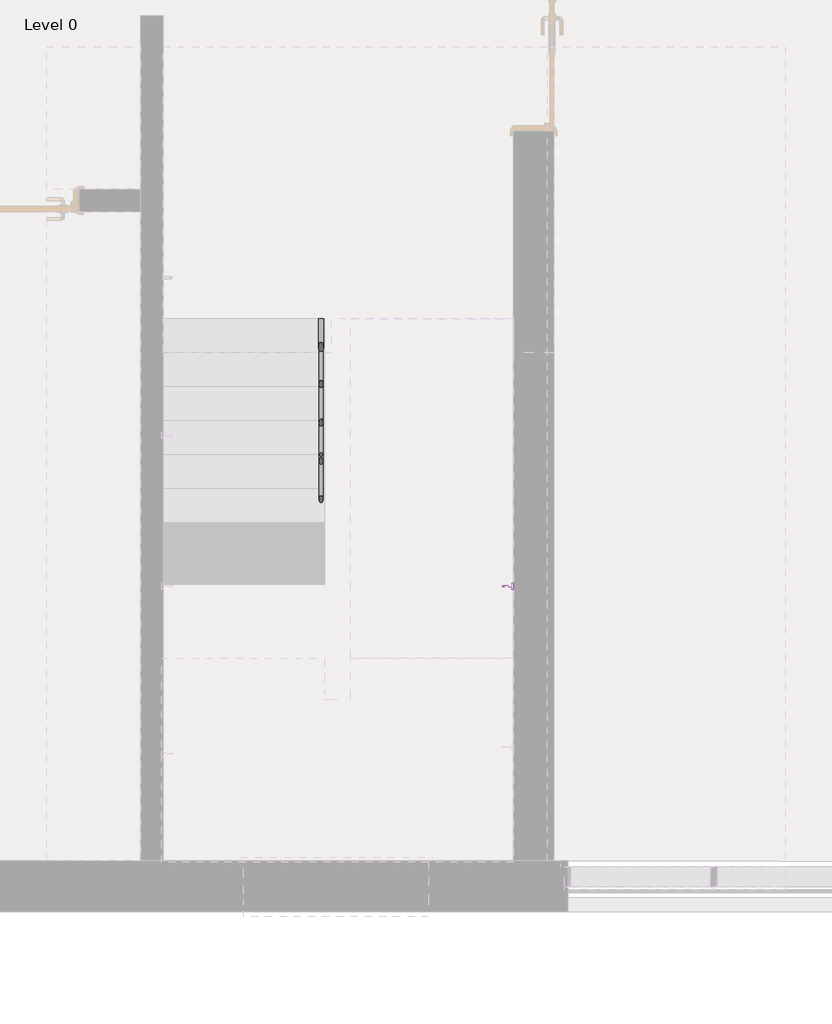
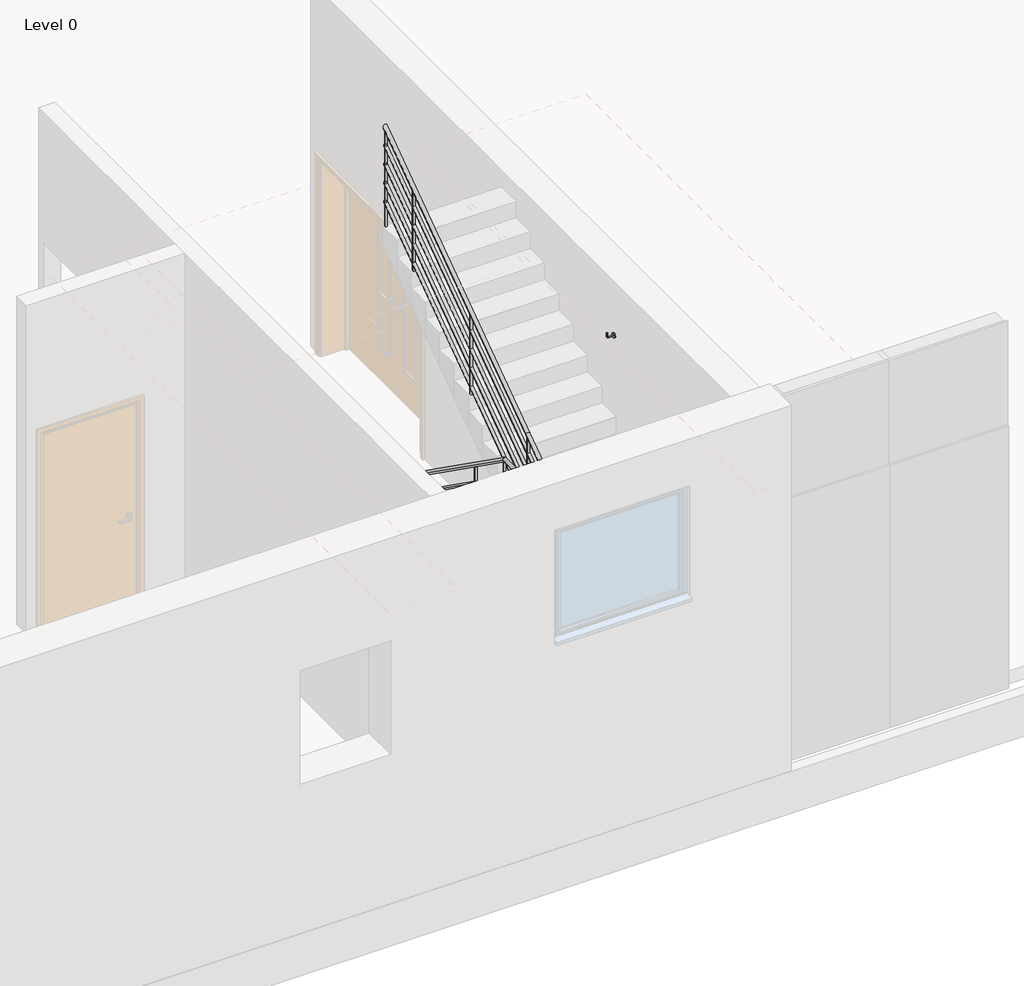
# One storey, part 11 of 14: 1 proxy, 1 railing.
"""IFC4 building model written with IfcOpenShell, lengths in millimetres."""

from ifc_helpers import new_model, si_unit, point, frame, frame_2d, origin, place, context, project, spatial, circle_curve, ellipse_curve, trimmed, segment, composite_curve, outline, extrude, transform, mapped, element, save
from ifc_brep_helpers import plane_surface, cylinder_surface, advanced_brep
from components import support_metal_circular1_support_metal_circular_016e83f0

model = new_model("IFC4")

# Units and contexts
model_context = context("Model", 3, world=origin())
ifc_project = project(units=[si_unit("LENGTHUNIT", "METRE", prefix="MILLI")], contexts=[model_context])

# Site, building, storey
site = spatial("IfcSite", under=ifc_project)
building = spatial("IfcBuilding", under=site)
storey = spatial("IfcBuildingStorey", under=building, Name="Level 0", Elevation=0.0)

# Proxy
placement = place(None, origin())
support_metal_circular1_support_metal_circular_shape = support_metal_circular1_support_metal_circular_016e83f0(model_context)
element("IfcBuildingElementProxy", 1, Name="Support - Metal - Circular1 : Support - Metal - Circular", ObjectType="Support - Metal - Circular1 : Support - Metal - Circular", at=placement, inside=storey, context=model_context, shape_type="MappedRepresentation", body=[
    mapped(support_metal_circular1_support_metal_circular_shape, transform((7761.8000023, 2330.7111848, 3385.714432), x_axis=(0.0, -1.0, 0.0), y_axis=(1.0, 0.0, 0.0), z_axis=(0.0, 0.0, 1.0))),
])

# Railing
element("IfcRailing", 2, ObjectType="36\"_Pipe", at=placement, inside=storey, context=model_context, shape_type="SolidModel", body=[
    advanced_brep(
    [(6401.8000024, 4300.0, 1052.7548977), (6441.8000024, 4300.0, 1052.7548977), (6401.8000024, 1793.6287019, 2830.0), (6441.8000024, 1793.6287019, 2830.0), (6401.8000024, 1454.6, 2830.0), (6441.8000024, 1494.6, 2830.0), (6682.6000025, 1454.6, 2830.0), (6642.6000025, 1494.6, 2830.0), (6682.6000025, 1556.3712981, 2830.0), (6642.6000025, 1556.3712981, 2830.0), (6682.6000025, 1811.5685755, 3010.9580695), (6642.6000025, 1811.5685755, 3010.9580695), (6682.6000025, 4300.0, 4775.4821704), (6642.6000025, 4300.0, 4775.4821704)],
    [
        (0, 1, ellipse_curve(frame((6421.8000024, 4300.0, 1052.7548977), z_axis=(0.0, 1.0, 0.0), x_axis=(0.0, 0.0, -1.0)), 24.5178296, 20.0)),
        (1, 0, ellipse_curve(frame((6421.8000024, 4300.0, 1052.7548977), z_axis=(0.0, 1.0, 0.0), x_axis=(0.0, 0.0, -1.0)), 24.5178296, 20.0)),
        (0, 2),
        (2, 3, ellipse_curve(frame((6421.8000024, 1793.6287019, 2830.0), z_axis=(0.0, 0.9528202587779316, -0.30353509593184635), x_axis=(0.0, -0.30353509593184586, -0.952820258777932)), 20.9903178, 20.0)),
        (3, 1),
        (3, 2, ellipse_curve(frame((6421.8000024, 1793.6287019, 2830.0), z_axis=(0.0, 0.9528202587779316, -0.30353509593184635), x_axis=(0.0, -0.30353509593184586, -0.952820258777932)), 20.9903178, 20.0)),
        (2, 4),
        (4, 5, ellipse_curve(frame((6421.8000024, 1474.6, 2830.0), z_axis=(-0.7071067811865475, 0.7071067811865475, 0.0), x_axis=(0.7071067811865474, 0.7071067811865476, 0.0)), 28.2842712, 20.0)),
        (5, 3),
        (5, 4, ellipse_curve(frame((6421.8000024, 1474.6, 2830.0), z_axis=(-0.7071067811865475, 0.7071067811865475, 0.0), x_axis=(0.7071067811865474, 0.7071067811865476, 0.0)), 28.2842712, 20.0)),
        (4, 6),
        (6, 7, ellipse_curve(frame((6662.6000025, 1474.6, 2830.0), z_axis=(-0.7071067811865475, -0.7071067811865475, 0.0), x_axis=(-0.7071067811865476, 0.7071067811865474, 0.0)), 28.2842712, 20.0)),
        (7, 5),
        (7, 6, ellipse_curve(frame((6662.6000025, 1474.6, 2830.0), z_axis=(-0.7071067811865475, -0.7071067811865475, 0.0), x_axis=(-0.7071067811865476, 0.7071067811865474, 0.0)), 28.2842712, 20.0)),
        (6, 8),
        (8, 9, ellipse_curve(frame((6662.6000025, 1556.3712981, 2830.0), z_axis=(0.0, -0.9528202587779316, -0.30353509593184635), x_axis=(0.0, -0.3035350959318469, 0.9528202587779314)), 20.9903178, 20.0)),
        (9, 7),
        (9, 8, ellipse_curve(frame((6662.6000025, 1556.3712981, 2830.0), z_axis=(0.0, -0.9528202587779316, -0.30353509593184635), x_axis=(0.0, -0.3035350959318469, 0.9528202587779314)), 20.9903178, 20.0)),
        (8, 10),
        (10, 11, circle_curve(frame((6662.6000025, 1811.5685755, 3010.9580695), z_axis=(0.0, -0.8157328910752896, -0.5784287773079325), x_axis=(-1.0, 0.0, 0.0)), 20.0)),
        (11, 9),
        (11, 10, circle_curve(frame((6662.6000025, 1811.5685755, 3010.9580695), z_axis=(0.0, -0.8157328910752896, -0.5784287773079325), x_axis=(-1.0, 0.0, 0.0)), 20.0)),
        (12, 13, ellipse_curve(frame((6662.6000025, 4300.0, 4775.4821704), z_axis=(0.0, 1.0, 0.0), x_axis=(0.0, 0.0, -1.0)), 24.5178296, 20.0)),
        (13, 12, ellipse_curve(frame((6662.6000025, 4300.0, 4775.4821704), z_axis=(0.0, 1.0, 0.0), x_axis=(0.0, 0.0, -1.0)), 24.5178296, 20.0)),
        (10, 12),
        (13, 11),
    ],
    [
        plane_surface(frame((6421.8000024, 4300.0, 1077.2727273), z_axis=(0.0, 1.0, 0.0), x_axis=(0.0, 0.0, -1.0))),
        cylinder_surface(frame((6421.8000024, 4288.4314245, 1060.9580695), z_axis=(0.0, 0.8157328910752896, -0.5784287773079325), x_axis=(1.0, 0.0, 0.0)), 20.0),
        cylinder_surface(frame((6421.8000024, 1800.0, 2830.0), z_axis=(0.0, 1.0, 0.0), x_axis=(1.0, 0.0, 0.0)), 20.0),
        cylinder_surface(frame((6421.8000024, 1474.6, 2830.0), z_axis=(-1.0, 0.0, 0.0), x_axis=(0.0, 1.0, 0.0)), 20.0),
        cylinder_surface(frame((6662.6000025, 1474.6, 2830.0), z_axis=(0.0, -1.0, 0.0), x_axis=(-1.0, 0.0, 0.0)), 20.0),
        cylinder_surface(frame((6662.6000025, 1561.5685755, 2833.6853422), z_axis=(0.0, -0.8157328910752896, -0.5784287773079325), x_axis=(-1.0, 0.0, 0.0)), 20.0),
        plane_surface(frame((6662.6000025, 4300.0, 4800.0), z_axis=(0.0, 1.0, 0.0), x_axis=(0.0, 0.0, 1.0))),
        cylinder_surface(frame((6662.6000025, 1811.5685755, 3010.9580695), z_axis=(0.0, -0.8157328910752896, -0.5784287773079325), x_axis=(-1.0, 0.0, 0.0)), 20.0),
    ],
    [
        (0, [[1, 2]]),
        (1, [[-1, 3, 4, 5]]),
        (1, [[-2, -5, 6, -3]]),
        (2, [[-4, 7, 8, 9]]),
        (2, [[-6, -9, 10, -7]]),
        (3, [[-8, 11, 12, 13]]),
        (3, [[-10, -13, 14, -11]]),
        (4, [[-12, 15, 16, 17]]),
        (4, [[-14, -17, 18, -15]]),
        (5, [[-16, 19, 20, 21]]),
        (5, [[-18, -21, 22, -19]]),
        (6, [[23, 24]]),
        (7, [[-20, 25, -24, 26]]),
        (7, [[-22, -26, -23, -25]]),
    ],
),
    advanced_brep(
    [(6406.8000024, 4300.0, 858.8843551), (6436.8000024, 4300.0, 858.8843551), (6406.8000024, 1800.0, 2631.6116278), (6436.8000024, 1800.0, 2631.6116278)],
    [
        (0, 1, ellipse_curve(frame((6421.8000024, 4300.0, 858.8843551), z_axis=(0.0, 1.0, 0.0), x_axis=(0.0, 0.0, -1.0)), 18.3883722, 15.0)),
        (1, 0, ellipse_curve(frame((6421.8000024, 4300.0, 858.8843551), z_axis=(0.0, 1.0, 0.0), x_axis=(0.0, 0.0, -1.0)), 18.3883722, 15.0)),
        (2, 3, ellipse_curve(frame((6421.8000024, 1800.0, 2631.6116278), z_axis=(0.0, -1.0, 0.0), x_axis=(0.0, 0.0, -1.0)), 18.3883722, 15.0)),
        (3, 2, ellipse_curve(frame((6421.8000024, 1800.0, 2631.6116278), z_axis=(0.0, -1.0, 0.0), x_axis=(0.0, 0.0, -1.0)), 18.3883722, 15.0)),
        (0, 2),
        (3, 1),
    ],
    [
        plane_surface(frame((6421.8000024, 4300.0, 877.2727273), z_axis=(0.0, 1.0, 0.0), x_axis=(0.0, 0.0, -1.0))),
        plane_surface(frame((6421.8000024, 1800.0, 2650.0), z_axis=(0.0, -1.0, 0.0), x_axis=(0.0, 0.0, -1.0))),
        cylinder_surface(frame((6421.8000024, 4291.3235683, 865.0367339), z_axis=(0.0, 0.8157328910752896, -0.5784287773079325), x_axis=(1.0, 0.0, 0.0)), 15.0),
    ],
    [
        (0, [[1, 2]]),
        (1, [[3, 4]]),
        (2, [[-1, 5, -4, 6]]),
        (2, [[-2, -6, -3, -5]]),
    ],
),
    advanced_brep(
    [(6406.8000024, 1800.0, 2635.0), (6436.8000024, 1800.0, 2635.0), (6406.8000024, 1489.6, 2635.0), (6436.8000024, 1489.6, 2635.0)],
    [
        (0, 1, circle_curve(frame((6421.8000024, 1800.0, 2635.0), z_axis=(0.0, 1.0, 0.0), x_axis=(1.0, 0.0, 0.0)), 15.0)),
        (1, 0, circle_curve(frame((6421.8000024, 1800.0, 2635.0), z_axis=(0.0, 1.0, 0.0), x_axis=(1.0, 0.0, 0.0)), 15.0)),
        (2, 3, circle_curve(frame((6421.8000024, 1489.6, 2635.0), z_axis=(0.0, -1.0, 0.0), x_axis=(1.0, 0.0, 0.0)), 15.0)),
        (3, 2, circle_curve(frame((6421.8000024, 1489.6, 2635.0), z_axis=(0.0, -1.0, 0.0), x_axis=(1.0, 0.0, 0.0)), 15.0)),
        (0, 2),
        (3, 1),
    ],
    [
        plane_surface(frame((6421.8000024, 1800.0, 2650.0), z_axis=(0.0, 1.0, 0.0), x_axis=(0.0, 0.0, -1.0))),
        plane_surface(frame((6421.8000024, 1489.6, 2650.0), z_axis=(0.0, -1.0, 0.0), x_axis=(0.0, 0.0, -1.0))),
        cylinder_surface(frame((6421.8000024, 1800.0, 2635.0), z_axis=(0.0, 1.0, 0.0), x_axis=(1.0, 0.0, 0.0)), 15.0),
    ],
    [
        (0, [[1, 2]]),
        (1, [[3, 4]]),
        (2, [[-1, 5, -4, 6]]),
        (2, [[-2, -6, -3, -5]]),
    ],
),
    advanced_brep(
    [(6406.8000024, 1459.6, 2635.0), (6406.8000024, 1489.6, 2635.0), (6647.6000025, 1459.6, 2635.0), (6647.6000025, 1489.6, 2635.0)],
    [
        (0, 1, circle_curve(frame((6406.8000024, 1474.6, 2635.0), z_axis=(-1.0, 0.0, 0.0), x_axis=(0.0, 1.0, 0.0)), 15.0)),
        (1, 0, circle_curve(frame((6406.8000024, 1474.6, 2635.0), z_axis=(-1.0, 0.0, 0.0), x_axis=(0.0, 1.0, 0.0)), 15.0)),
        (2, 3, circle_curve(frame((6647.6000025, 1474.6, 2635.0), z_axis=(1.0, 0.0, 0.0), x_axis=(0.0, 1.0, 0.0)), 15.0)),
        (3, 2, circle_curve(frame((6647.6000025, 1474.6, 2635.0), z_axis=(1.0, 0.0, 0.0), x_axis=(0.0, 1.0, 0.0)), 15.0)),
        (0, 2),
        (3, 1),
    ],
    [
        plane_surface(frame((6406.8000024, 1474.6, 2650.0), z_axis=(-1.0, 0.0, 0.0), x_axis=(0.0, 1.0, 0.0))),
        plane_surface(frame((6647.6000025, 1474.6, 2650.0), z_axis=(1.0, 0.0, 0.0), x_axis=(0.0, 1.0, 0.0))),
        cylinder_surface(frame((6406.8000024, 1474.6, 2635.0), z_axis=(-1.0, 0.0, 0.0), x_axis=(0.0, 1.0, 0.0)), 15.0),
    ],
    [
        (0, [[1, 2]]),
        (1, [[3, 4]]),
        (2, [[-1, 5, -4, 6]]),
        (2, [[-2, -6, -3, -5]]),
    ],
),
    advanced_brep(
    [(6677.6000025, 1459.6, 2635.0), (6647.6000025, 1459.6, 2635.0), (6677.6000025, 1554.7784736, 2635.0), (6647.6000025, 1554.7784736, 2635.0), (6677.6000025, 1800.0, 2808.8843551), (6647.6000025, 1800.0, 2808.8843551)],
    [
        (0, 1, circle_curve(frame((6662.6000025, 1459.6, 2635.0), z_axis=(0.0, -1.0, 0.0), x_axis=(-1.0, 0.0, 0.0)), 15.0)),
        (1, 0, circle_curve(frame((6662.6000025, 1459.6, 2635.0), z_axis=(0.0, -1.0, 0.0), x_axis=(-1.0, 0.0, 0.0)), 15.0)),
        (0, 2),
        (2, 3, ellipse_curve(frame((6662.6000025, 1554.7784736, 2635.0), z_axis=(0.0, -0.9528202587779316, -0.3035350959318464), x_axis=(0.0, -0.3035350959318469, 0.9528202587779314)), 15.7427383, 15.0)),
        (3, 1),
        (3, 2, ellipse_curve(frame((6662.6000025, 1554.7784736, 2635.0), z_axis=(0.0, -0.9528202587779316, -0.3035350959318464), x_axis=(0.0, -0.3035350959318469, 0.9528202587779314)), 15.7427383, 15.0)),
        (4, 5, ellipse_curve(frame((6662.6000025, 1800.0, 2808.8843551), z_axis=(0.0, 1.0, 0.0), x_axis=(0.0, 0.0, -1.0)), 18.3883722, 15.0)),
        (5, 4, ellipse_curve(frame((6662.6000025, 1800.0, 2808.8843551), z_axis=(0.0, 1.0, 0.0), x_axis=(0.0, 0.0, -1.0)), 18.3883722, 15.0)),
        (2, 4),
        (5, 3),
    ],
    [
        plane_surface(frame((6662.6000025, 1459.6, 2650.0), z_axis=(0.0, -1.0, 0.0), x_axis=(0.0, 0.0, 1.0))),
        cylinder_surface(frame((6662.6000025, 1459.6, 2635.0), z_axis=(0.0, -1.0, 0.0), x_axis=(-1.0, 0.0, 0.0)), 15.0),
        plane_surface(frame((6662.6000025, 1800.0, 2827.2727273), z_axis=(0.0, 1.0, 0.0), x_axis=(0.0, 0.0, 1.0))),
        cylinder_surface(frame((6662.6000025, 1558.6764317, 2637.7640066), z_axis=(0.0, -0.8157328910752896, -0.5784287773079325), x_axis=(-1.0, 0.0, 0.0)), 15.0),
    ],
    [
        (0, [[1, 2]]),
        (1, [[-1, 3, 4, 5]]),
        (1, [[-2, -5, 6, -3]]),
        (2, [[7, 8]]),
        (3, [[-4, 9, -8, 10]]),
        (3, [[-6, -10, -7, -9]]),
    ],
),
    advanced_brep(
    [(6677.6000025, 1800.0, 2808.8843551), (6647.6000025, 1800.0, 2808.8843551), (6677.6000025, 4300.0, 4581.6116278), (6647.6000025, 4300.0, 4581.6116278)],
    [
        (0, 1, ellipse_curve(frame((6662.6000025, 1800.0, 2808.8843551), z_axis=(0.0, -1.0, 0.0), x_axis=(0.0, 0.0, -1.0)), 18.3883722, 15.0)),
        (1, 0, ellipse_curve(frame((6662.6000025, 1800.0, 2808.8843551), z_axis=(0.0, -1.0, 0.0), x_axis=(0.0, 0.0, -1.0)), 18.3883722, 15.0)),
        (2, 3, ellipse_curve(frame((6662.6000025, 4300.0, 4581.6116278), z_axis=(0.0, 1.0, 0.0), x_axis=(0.0, 0.0, -1.0)), 18.3883722, 15.0)),
        (3, 2, ellipse_curve(frame((6662.6000025, 4300.0, 4581.6116278), z_axis=(0.0, 1.0, 0.0), x_axis=(0.0, 0.0, -1.0)), 18.3883722, 15.0)),
        (0, 2),
        (3, 1),
    ],
    [
        plane_surface(frame((6662.6000025, 1800.0, 2827.2727273), z_axis=(0.0, -1.0, 0.0), x_axis=(0.0, 0.0, 1.0))),
        plane_surface(frame((6662.6000025, 4300.0, 4600.0), z_axis=(0.0, 1.0, 0.0), x_axis=(0.0, 0.0, 1.0))),
        cylinder_surface(frame((6662.6000025, 1808.6764317, 2815.0367339), z_axis=(0.0, -0.8157328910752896, -0.5784287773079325), x_axis=(-1.0, 0.0, 0.0)), 15.0),
    ],
    [
        (0, [[1, 2]]),
        (1, [[3, 4]]),
        (2, [[-1, 5, -4, 6]]),
        (2, [[-2, -6, -3, -5]]),
    ],
),
    advanced_brep(
    [(6406.8000024, 4300.0, 658.8843551), (6436.8000024, 4300.0, 658.8843551), (6406.8000024, 1800.0, 2431.6116278), (6436.8000024, 1800.0, 2431.6116278)],
    [
        (0, 1, ellipse_curve(frame((6421.8000024, 4300.0, 658.8843551), z_axis=(0.0, 1.0, 0.0), x_axis=(0.0, 0.0, -1.0)), 18.3883722, 15.0)),
        (1, 0, ellipse_curve(frame((6421.8000024, 4300.0, 658.8843551), z_axis=(0.0, 1.0, 0.0), x_axis=(0.0, 0.0, -1.0)), 18.3883722, 15.0)),
        (2, 3, ellipse_curve(frame((6421.8000024, 1800.0, 2431.6116278), z_axis=(0.0, -1.0, 0.0), x_axis=(0.0, 0.0, -1.0)), 18.3883722, 15.0)),
        (3, 2, ellipse_curve(frame((6421.8000024, 1800.0, 2431.6116278), z_axis=(0.0, -1.0, 0.0), x_axis=(0.0, 0.0, -1.0)), 18.3883722, 15.0)),
        (0, 2),
        (3, 1),
    ],
    [
        plane_surface(frame((6421.8000024, 4300.0, 677.2727273), z_axis=(0.0, 1.0, 0.0), x_axis=(0.0, 0.0, -1.0))),
        plane_surface(frame((6421.8000024, 1800.0, 2450.0), z_axis=(0.0, -1.0, 0.0), x_axis=(0.0, 0.0, -1.0))),
        cylinder_surface(frame((6421.8000024, 4291.3235683, 665.0367339), z_axis=(0.0, 0.8157328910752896, -0.5784287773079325), x_axis=(1.0, 0.0, 0.0)), 15.0),
    ],
    [
        (0, [[1, 2]]),
        (1, [[3, 4]]),
        (2, [[-1, 5, -4, 6]]),
        (2, [[-2, -6, -3, -5]]),
    ],
),
    advanced_brep(
    [(6406.8000024, 1800.0, 2435.0), (6436.8000024, 1800.0, 2435.0), (6406.8000024, 1489.6, 2435.0), (6436.8000024, 1489.6, 2435.0)],
    [
        (0, 1, circle_curve(frame((6421.8000024, 1800.0, 2435.0), z_axis=(0.0, 1.0, 0.0), x_axis=(1.0, 0.0, 0.0)), 15.0)),
        (1, 0, circle_curve(frame((6421.8000024, 1800.0, 2435.0), z_axis=(0.0, 1.0, 0.0), x_axis=(1.0, 0.0, 0.0)), 15.0)),
        (2, 3, circle_curve(frame((6421.8000024, 1489.6, 2435.0), z_axis=(0.0, -1.0, 0.0), x_axis=(1.0, 0.0, 0.0)), 15.0)),
        (3, 2, circle_curve(frame((6421.8000024, 1489.6, 2435.0), z_axis=(0.0, -1.0, 0.0), x_axis=(1.0, 0.0, 0.0)), 15.0)),
        (0, 2),
        (3, 1),
    ],
    [
        plane_surface(frame((6421.8000024, 1800.0, 2450.0), z_axis=(0.0, 1.0, 0.0), x_axis=(0.0, 0.0, -1.0))),
        plane_surface(frame((6421.8000024, 1489.6, 2450.0), z_axis=(0.0, -1.0, 0.0), x_axis=(0.0, 0.0, -1.0))),
        cylinder_surface(frame((6421.8000024, 1800.0, 2435.0), z_axis=(0.0, 1.0, 0.0), x_axis=(1.0, 0.0, 0.0)), 15.0),
    ],
    [
        (0, [[1, 2]]),
        (1, [[3, 4]]),
        (2, [[-1, 5, -4, 6]]),
        (2, [[-2, -6, -3, -5]]),
    ],
),
    advanced_brep(
    [(6406.8000024, 1459.6, 2435.0), (6406.8000024, 1489.6, 2435.0), (6647.6000025, 1459.6, 2435.0), (6647.6000025, 1489.6, 2435.0)],
    [
        (0, 1, circle_curve(frame((6406.8000024, 1474.6, 2435.0), z_axis=(-1.0, 0.0, 0.0), x_axis=(0.0, 1.0, 0.0)), 15.0)),
        (1, 0, circle_curve(frame((6406.8000024, 1474.6, 2435.0), z_axis=(-1.0, 0.0, 0.0), x_axis=(0.0, 1.0, 0.0)), 15.0)),
        (2, 3, circle_curve(frame((6647.6000025, 1474.6, 2435.0), z_axis=(1.0, 0.0, 0.0), x_axis=(0.0, 1.0, 0.0)), 15.0)),
        (3, 2, circle_curve(frame((6647.6000025, 1474.6, 2435.0), z_axis=(1.0, 0.0, 0.0), x_axis=(0.0, 1.0, 0.0)), 15.0)),
        (0, 2),
        (3, 1),
    ],
    [
        plane_surface(frame((6406.8000024, 1474.6, 2450.0), z_axis=(-1.0, 0.0, 0.0), x_axis=(0.0, 1.0, 0.0))),
        plane_surface(frame((6647.6000025, 1474.6, 2450.0), z_axis=(1.0, 0.0, 0.0), x_axis=(0.0, 1.0, 0.0))),
        cylinder_surface(frame((6406.8000024, 1474.6, 2435.0), z_axis=(-1.0, 0.0, 0.0), x_axis=(0.0, 1.0, 0.0)), 15.0),
    ],
    [
        (0, [[1, 2]]),
        (1, [[3, 4]]),
        (2, [[-1, 5, -4, 6]]),
        (2, [[-2, -6, -3, -5]]),
    ],
),
    advanced_brep(
    [(6677.6000025, 1459.6, 2435.0), (6647.6000025, 1459.6, 2435.0), (6677.6000025, 1554.7784736, 2435.0), (6647.6000025, 1554.7784736, 2435.0), (6677.6000025, 1800.0, 2608.8843551), (6647.6000025, 1800.0, 2608.8843551)],
    [
        (0, 1, circle_curve(frame((6662.6000025, 1459.6, 2435.0), z_axis=(0.0, -1.0, 0.0), x_axis=(-1.0, 0.0, 0.0)), 15.0)),
        (1, 0, circle_curve(frame((6662.6000025, 1459.6, 2435.0), z_axis=(0.0, -1.0, 0.0), x_axis=(-1.0, 0.0, 0.0)), 15.0)),
        (0, 2),
        (2, 3, ellipse_curve(frame((6662.6000025, 1554.7784736, 2435.0), z_axis=(0.0, -0.9528202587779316, -0.3035350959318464), x_axis=(0.0, -0.3035350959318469, 0.9528202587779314)), 15.7427383, 15.0)),
        (3, 1),
        (3, 2, ellipse_curve(frame((6662.6000025, 1554.7784736, 2435.0), z_axis=(0.0, -0.9528202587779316, -0.3035350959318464), x_axis=(0.0, -0.3035350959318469, 0.9528202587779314)), 15.7427383, 15.0)),
        (4, 5, ellipse_curve(frame((6662.6000025, 1800.0, 2608.8843551), z_axis=(0.0, 1.0, 0.0), x_axis=(0.0, 0.0, -1.0)), 18.3883722, 15.0)),
        (5, 4, ellipse_curve(frame((6662.6000025, 1800.0, 2608.8843551), z_axis=(0.0, 1.0, 0.0), x_axis=(0.0, 0.0, -1.0)), 18.3883722, 15.0)),
        (2, 4),
        (5, 3),
    ],
    [
        plane_surface(frame((6662.6000025, 1459.6, 2450.0), z_axis=(0.0, -1.0, 0.0), x_axis=(0.0, 0.0, 1.0))),
        cylinder_surface(frame((6662.6000025, 1459.6, 2435.0), z_axis=(0.0, -1.0, 0.0), x_axis=(-1.0, 0.0, 0.0)), 15.0),
        plane_surface(frame((6662.6000025, 1800.0, 2627.2727273), z_axis=(0.0, 1.0, 0.0), x_axis=(0.0, 0.0, 1.0))),
        cylinder_surface(frame((6662.6000025, 1558.6764317, 2437.7640066), z_axis=(0.0, -0.8157328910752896, -0.5784287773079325), x_axis=(-1.0, 0.0, 0.0)), 15.0),
    ],
    [
        (0, [[1, 2]]),
        (1, [[-1, 3, 4, 5]]),
        (1, [[-2, -5, 6, -3]]),
        (2, [[7, 8]]),
        (3, [[-4, 9, -8, 10]]),
        (3, [[-6, -10, -7, -9]]),
    ],
),
    advanced_brep(
    [(6677.6000025, 1800.0, 2608.8843551), (6647.6000025, 1800.0, 2608.8843551), (6677.6000025, 4300.0, 4381.6116278), (6647.6000025, 4300.0, 4381.6116278)],
    [
        (0, 1, ellipse_curve(frame((6662.6000025, 1800.0, 2608.8843551), z_axis=(0.0, -1.0, 0.0), x_axis=(0.0, 0.0, -1.0)), 18.3883722, 15.0)),
        (1, 0, ellipse_curve(frame((6662.6000025, 1800.0, 2608.8843551), z_axis=(0.0, -1.0, 0.0), x_axis=(0.0, 0.0, -1.0)), 18.3883722, 15.0)),
        (2, 3, ellipse_curve(frame((6662.6000025, 4300.0, 4381.6116278), z_axis=(0.0, 1.0, 0.0), x_axis=(0.0, 0.0, -1.0)), 18.3883722, 15.0)),
        (3, 2, ellipse_curve(frame((6662.6000025, 4300.0, 4381.6116278), z_axis=(0.0, 1.0, 0.0), x_axis=(0.0, 0.0, -1.0)), 18.3883722, 15.0)),
        (0, 2),
        (3, 1),
    ],
    [
        plane_surface(frame((6662.6000025, 1800.0, 2627.2727273), z_axis=(0.0, -1.0, 0.0), x_axis=(0.0, 0.0, 1.0))),
        plane_surface(frame((6662.6000025, 4300.0, 4400.0), z_axis=(0.0, 1.0, 0.0), x_axis=(0.0, 0.0, 1.0))),
        cylinder_surface(frame((6662.6000025, 1808.6764317, 2615.0367339), z_axis=(0.0, -0.8157328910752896, -0.5784287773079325), x_axis=(-1.0, 0.0, 0.0)), 15.0),
    ],
    [
        (0, [[1, 2]]),
        (1, [[3, 4]]),
        (2, [[-1, 5, -4, 6]]),
        (2, [[-2, -6, -3, -5]]),
    ],
),
    advanced_brep(
    [(6406.8000024, 4300.0, 458.8843551), (6436.8000024, 4300.0, 458.8843551), (6406.8000024, 1800.0, 2231.6116278), (6436.8000024, 1800.0, 2231.6116278)],
    [
        (0, 1, ellipse_curve(frame((6421.8000024, 4300.0, 458.8843551), z_axis=(0.0, 1.0, 0.0), x_axis=(0.0, 0.0, -1.0)), 18.3883722, 15.0)),
        (1, 0, ellipse_curve(frame((6421.8000024, 4300.0, 458.8843551), z_axis=(0.0, 1.0, 0.0), x_axis=(0.0, 0.0, -1.0)), 18.3883722, 15.0)),
        (2, 3, ellipse_curve(frame((6421.8000024, 1800.0, 2231.6116278), z_axis=(0.0, -1.0, 0.0), x_axis=(0.0, 0.0, -1.0)), 18.3883722, 15.0)),
        (3, 2, ellipse_curve(frame((6421.8000024, 1800.0, 2231.6116278), z_axis=(0.0, -1.0, 0.0), x_axis=(0.0, 0.0, -1.0)), 18.3883722, 15.0)),
        (0, 2),
        (3, 1),
    ],
    [
        plane_surface(frame((6421.8000024, 4300.0, 477.2727273), z_axis=(0.0, 1.0, 0.0), x_axis=(0.0, 0.0, -1.0))),
        plane_surface(frame((6421.8000024, 1800.0, 2250.0), z_axis=(0.0, -1.0, 0.0), x_axis=(0.0, 0.0, -1.0))),
        cylinder_surface(frame((6421.8000024, 4291.3235683, 465.0367339), z_axis=(0.0, 0.8157328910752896, -0.5784287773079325), x_axis=(1.0, 0.0, 0.0)), 15.0),
    ],
    [
        (0, [[1, 2]]),
        (1, [[3, 4]]),
        (2, [[-1, 5, -4, 6]]),
        (2, [[-2, -6, -3, -5]]),
    ],
),
    advanced_brep(
    [(6406.8000024, 1800.0, 2235.0), (6436.8000024, 1800.0, 2235.0), (6406.8000024, 1489.6, 2235.0), (6436.8000024, 1489.6, 2235.0)],
    [
        (0, 1, circle_curve(frame((6421.8000024, 1800.0, 2235.0), z_axis=(0.0, 1.0, 0.0), x_axis=(1.0, 0.0, 0.0)), 15.0)),
        (1, 0, circle_curve(frame((6421.8000024, 1800.0, 2235.0), z_axis=(0.0, 1.0, 0.0), x_axis=(1.0, 0.0, 0.0)), 15.0)),
        (2, 3, circle_curve(frame((6421.8000024, 1489.6, 2235.0), z_axis=(0.0, -1.0, 0.0), x_axis=(1.0, 0.0, 0.0)), 15.0)),
        (3, 2, circle_curve(frame((6421.8000024, 1489.6, 2235.0), z_axis=(0.0, -1.0, 0.0), x_axis=(1.0, 0.0, 0.0)), 15.0)),
        (0, 2),
        (3, 1),
    ],
    [
        plane_surface(frame((6421.8000024, 1800.0, 2250.0), z_axis=(0.0, 1.0, 0.0), x_axis=(0.0, 0.0, -1.0))),
        plane_surface(frame((6421.8000024, 1489.6, 2250.0), z_axis=(0.0, -1.0, 0.0), x_axis=(0.0, 0.0, -1.0))),
        cylinder_surface(frame((6421.8000024, 1800.0, 2235.0), z_axis=(0.0, 1.0, 0.0), x_axis=(1.0, 0.0, 0.0)), 15.0),
    ],
    [
        (0, [[1, 2]]),
        (1, [[3, 4]]),
        (2, [[-1, 5, -4, 6]]),
        (2, [[-2, -6, -3, -5]]),
    ],
),
    advanced_brep(
    [(6406.8000024, 1459.6, 2235.0), (6406.8000024, 1489.6, 2235.0), (6647.6000025, 1459.6, 2235.0), (6647.6000025, 1489.6, 2235.0)],
    [
        (0, 1, circle_curve(frame((6406.8000024, 1474.6, 2235.0), z_axis=(-1.0, 0.0, 0.0), x_axis=(0.0, 1.0, 0.0)), 15.0)),
        (1, 0, circle_curve(frame((6406.8000024, 1474.6, 2235.0), z_axis=(-1.0, 0.0, 0.0), x_axis=(0.0, 1.0, 0.0)), 15.0)),
        (2, 3, circle_curve(frame((6647.6000025, 1474.6, 2235.0), z_axis=(1.0, 0.0, 0.0), x_axis=(0.0, 1.0, 0.0)), 15.0)),
        (3, 2, circle_curve(frame((6647.6000025, 1474.6, 2235.0), z_axis=(1.0, 0.0, 0.0), x_axis=(0.0, 1.0, 0.0)), 15.0)),
        (0, 2),
        (3, 1),
    ],
    [
        plane_surface(frame((6406.8000024, 1474.6, 2250.0), z_axis=(-1.0, 0.0, 0.0), x_axis=(0.0, 1.0, 0.0))),
        plane_surface(frame((6647.6000025, 1474.6, 2250.0), z_axis=(1.0, 0.0, 0.0), x_axis=(0.0, 1.0, 0.0))),
        cylinder_surface(frame((6406.8000024, 1474.6, 2235.0), z_axis=(-1.0, 0.0, 0.0), x_axis=(0.0, 1.0, 0.0)), 15.0),
    ],
    [
        (0, [[1, 2]]),
        (1, [[3, 4]]),
        (2, [[-1, 5, -4, 6]]),
        (2, [[-2, -6, -3, -5]]),
    ],
),
    advanced_brep(
    [(6677.6000025, 1459.6, 2235.0), (6647.6000025, 1459.6, 2235.0), (6677.6000025, 1554.7784736, 2235.0), (6647.6000025, 1554.7784736, 2235.0), (6677.6000025, 1800.0, 2408.8843551), (6647.6000025, 1800.0, 2408.8843551)],
    [
        (0, 1, circle_curve(frame((6662.6000025, 1459.6, 2235.0), z_axis=(0.0, -1.0, 0.0), x_axis=(-1.0, 0.0, 0.0)), 15.0)),
        (1, 0, circle_curve(frame((6662.6000025, 1459.6, 2235.0), z_axis=(0.0, -1.0, 0.0), x_axis=(-1.0, 0.0, 0.0)), 15.0)),
        (0, 2),
        (2, 3, ellipse_curve(frame((6662.6000025, 1554.7784736, 2235.0), z_axis=(0.0, -0.9528202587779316, -0.3035350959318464), x_axis=(0.0, -0.3035350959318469, 0.9528202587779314)), 15.7427383, 15.0)),
        (3, 1),
        (3, 2, ellipse_curve(frame((6662.6000025, 1554.7784736, 2235.0), z_axis=(0.0, -0.9528202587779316, -0.3035350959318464), x_axis=(0.0, -0.3035350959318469, 0.9528202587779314)), 15.7427383, 15.0)),
        (4, 5, ellipse_curve(frame((6662.6000025, 1800.0, 2408.8843551), z_axis=(0.0, 1.0, 0.0), x_axis=(0.0, 0.0, -1.0)), 18.3883722, 15.0)),
        (5, 4, ellipse_curve(frame((6662.6000025, 1800.0, 2408.8843551), z_axis=(0.0, 1.0, 0.0), x_axis=(0.0, 0.0, -1.0)), 18.3883722, 15.0)),
        (2, 4),
        (5, 3),
    ],
    [
        plane_surface(frame((6662.6000025, 1459.6, 2250.0), z_axis=(0.0, -1.0, 0.0), x_axis=(0.0, 0.0, 1.0))),
        cylinder_surface(frame((6662.6000025, 1459.6, 2235.0), z_axis=(0.0, -1.0, 0.0), x_axis=(-1.0, 0.0, 0.0)), 15.0),
        plane_surface(frame((6662.6000025, 1800.0, 2427.2727273), z_axis=(0.0, 1.0, 0.0), x_axis=(0.0, 0.0, 1.0))),
        cylinder_surface(frame((6662.6000025, 1558.6764317, 2237.7640066), z_axis=(0.0, -0.8157328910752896, -0.5784287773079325), x_axis=(-1.0, 0.0, 0.0)), 15.0),
    ],
    [
        (0, [[1, 2]]),
        (1, [[-1, 3, 4, 5]]),
        (1, [[-2, -5, 6, -3]]),
        (2, [[7, 8]]),
        (3, [[-4, 9, -8, 10]]),
        (3, [[-6, -10, -7, -9]]),
    ],
),
    advanced_brep(
    [(6677.6000025, 1800.0, 2408.8843551), (6647.6000025, 1800.0, 2408.8843551), (6677.6000025, 4300.0, 4181.6116278), (6647.6000025, 4300.0, 4181.6116278)],
    [
        (0, 1, ellipse_curve(frame((6662.6000025, 1800.0, 2408.8843551), z_axis=(0.0, -1.0, 0.0), x_axis=(0.0, 0.0, -1.0)), 18.3883722, 15.0)),
        (1, 0, ellipse_curve(frame((6662.6000025, 1800.0, 2408.8843551), z_axis=(0.0, -1.0, 0.0), x_axis=(0.0, 0.0, -1.0)), 18.3883722, 15.0)),
        (2, 3, ellipse_curve(frame((6662.6000025, 4300.0, 4181.6116278), z_axis=(0.0, 1.0, 0.0), x_axis=(0.0, 0.0, -1.0)), 18.3883722, 15.0)),
        (3, 2, ellipse_curve(frame((6662.6000025, 4300.0, 4181.6116278), z_axis=(0.0, 1.0, 0.0), x_axis=(0.0, 0.0, -1.0)), 18.3883722, 15.0)),
        (0, 2),
        (3, 1),
    ],
    [
        plane_surface(frame((6662.6000025, 1800.0, 2427.2727273), z_axis=(0.0, -1.0, 0.0), x_axis=(0.0, 0.0, 1.0))),
        plane_surface(frame((6662.6000025, 4300.0, 4200.0), z_axis=(0.0, 1.0, 0.0), x_axis=(0.0, 0.0, 1.0))),
        cylinder_surface(frame((6662.6000025, 1808.6764317, 2415.0367339), z_axis=(0.0, -0.8157328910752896, -0.5784287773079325), x_axis=(-1.0, 0.0, 0.0)), 15.0),
    ],
    [
        (0, [[1, 2]]),
        (1, [[3, 4]]),
        (2, [[-1, 5, -4, 6]]),
        (2, [[-2, -6, -3, -5]]),
    ],
),
    advanced_brep(
    [(6406.8000024, 4300.0, 258.8843551), (6436.8000024, 4300.0, 258.8843551), (6406.8000024, 1800.0, 2031.6116278), (6436.8000024, 1800.0, 2031.6116278)],
    [
        (0, 1, ellipse_curve(frame((6421.8000024, 4300.0, 258.8843551), z_axis=(0.0, 1.0, 0.0), x_axis=(0.0, 0.0, -1.0)), 18.3883722, 15.0)),
        (1, 0, ellipse_curve(frame((6421.8000024, 4300.0, 258.8843551), z_axis=(0.0, 1.0, 0.0), x_axis=(0.0, 0.0, -1.0)), 18.3883722, 15.0)),
        (2, 3, ellipse_curve(frame((6421.8000024, 1800.0, 2031.6116278), z_axis=(0.0, -1.0, 0.0), x_axis=(0.0, 0.0, -1.0)), 18.3883722, 15.0)),
        (3, 2, ellipse_curve(frame((6421.8000024, 1800.0, 2031.6116278), z_axis=(0.0, -1.0, 0.0), x_axis=(0.0, 0.0, -1.0)), 18.3883722, 15.0)),
        (0, 2),
        (3, 1),
    ],
    [
        plane_surface(frame((6421.8000024, 4300.0, 277.2727273), z_axis=(0.0, 1.0, 0.0), x_axis=(0.0, 0.0, -1.0))),
        plane_surface(frame((6421.8000024, 1800.0, 2050.0), z_axis=(0.0, -1.0, 0.0), x_axis=(0.0, 0.0, -1.0))),
        cylinder_surface(frame((6421.8000024, 4291.3235683, 265.0367339), z_axis=(0.0, 0.8157328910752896, -0.5784287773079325), x_axis=(1.0, 0.0, 0.0)), 15.0),
    ],
    [
        (0, [[1, 2]]),
        (1, [[3, 4]]),
        (2, [[-1, 5, -4, 6]]),
        (2, [[-2, -6, -3, -5]]),
    ],
),
    advanced_brep(
    [(6406.8000024, 1800.0, 2035.0), (6436.8000024, 1800.0, 2035.0), (6406.8000024, 1489.6, 2035.0), (6436.8000024, 1489.6, 2035.0)],
    [
        (0, 1, circle_curve(frame((6421.8000024, 1800.0, 2035.0), z_axis=(0.0, 1.0, 0.0), x_axis=(1.0, 0.0, 0.0)), 15.0)),
        (1, 0, circle_curve(frame((6421.8000024, 1800.0, 2035.0), z_axis=(0.0, 1.0, 0.0), x_axis=(1.0, 0.0, 0.0)), 15.0)),
        (2, 3, circle_curve(frame((6421.8000024, 1489.6, 2035.0), z_axis=(0.0, -1.0, 0.0), x_axis=(1.0, 0.0, 0.0)), 15.0)),
        (3, 2, circle_curve(frame((6421.8000024, 1489.6, 2035.0), z_axis=(0.0, -1.0, 0.0), x_axis=(1.0, 0.0, 0.0)), 15.0)),
        (0, 2),
        (3, 1),
    ],
    [
        plane_surface(frame((6421.8000024, 1800.0, 2050.0), z_axis=(0.0, 1.0, 0.0), x_axis=(0.0, 0.0, -1.0))),
        plane_surface(frame((6421.8000024, 1489.6, 2050.0), z_axis=(0.0, -1.0, 0.0), x_axis=(0.0, 0.0, -1.0))),
        cylinder_surface(frame((6421.8000024, 1800.0, 2035.0), z_axis=(0.0, 1.0, 0.0), x_axis=(1.0, 0.0, 0.0)), 15.0),
    ],
    [
        (0, [[1, 2]]),
        (1, [[3, 4]]),
        (2, [[-1, 5, -4, 6]]),
        (2, [[-2, -6, -3, -5]]),
    ],
),
    advanced_brep(
    [(6406.8000024, 1459.6, 2035.0), (6406.8000024, 1489.6, 2035.0), (6647.6000025, 1459.6, 2035.0), (6647.6000025, 1489.6, 2035.0)],
    [
        (0, 1, circle_curve(frame((6406.8000024, 1474.6, 2035.0), z_axis=(-1.0, 0.0, 0.0), x_axis=(0.0, 1.0, 0.0)), 15.0)),
        (1, 0, circle_curve(frame((6406.8000024, 1474.6, 2035.0), z_axis=(-1.0, 0.0, 0.0), x_axis=(0.0, 1.0, 0.0)), 15.0)),
        (2, 3, circle_curve(frame((6647.6000025, 1474.6, 2035.0), z_axis=(1.0, 0.0, 0.0), x_axis=(0.0, 1.0, 0.0)), 15.0)),
        (3, 2, circle_curve(frame((6647.6000025, 1474.6, 2035.0), z_axis=(1.0, 0.0, 0.0), x_axis=(0.0, 1.0, 0.0)), 15.0)),
        (0, 2),
        (3, 1),
    ],
    [
        plane_surface(frame((6406.8000024, 1474.6, 2050.0), z_axis=(-1.0, 0.0, 0.0), x_axis=(0.0, 1.0, 0.0))),
        plane_surface(frame((6647.6000025, 1474.6, 2050.0), z_axis=(1.0, 0.0, 0.0), x_axis=(0.0, 1.0, 0.0))),
        cylinder_surface(frame((6406.8000024, 1474.6, 2035.0), z_axis=(-1.0, 0.0, 0.0), x_axis=(0.0, 1.0, 0.0)), 15.0),
    ],
    [
        (0, [[1, 2]]),
        (1, [[3, 4]]),
        (2, [[-1, 5, -4, 6]]),
        (2, [[-2, -6, -3, -5]]),
    ],
),
    advanced_brep(
    [(6677.6000025, 1459.6, 2035.0), (6647.6000025, 1459.6, 2035.0), (6677.6000025, 1554.7784736, 2035.0), (6647.6000025, 1554.7784736, 2035.0), (6677.6000025, 1800.0, 2208.8843551), (6647.6000025, 1800.0, 2208.8843551)],
    [
        (0, 1, circle_curve(frame((6662.6000025, 1459.6, 2035.0), z_axis=(0.0, -1.0, 0.0), x_axis=(-1.0, 0.0, 0.0)), 15.0)),
        (1, 0, circle_curve(frame((6662.6000025, 1459.6, 2035.0), z_axis=(0.0, -1.0, 0.0), x_axis=(-1.0, 0.0, 0.0)), 15.0)),
        (0, 2),
        (2, 3, ellipse_curve(frame((6662.6000025, 1554.7784736, 2035.0), z_axis=(0.0, -0.9528202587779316, -0.3035350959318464), x_axis=(0.0, -0.3035350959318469, 0.9528202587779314)), 15.7427383, 15.0)),
        (3, 1),
        (3, 2, ellipse_curve(frame((6662.6000025, 1554.7784736, 2035.0), z_axis=(0.0, -0.9528202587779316, -0.3035350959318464), x_axis=(0.0, -0.3035350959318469, 0.9528202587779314)), 15.7427383, 15.0)),
        (4, 5, ellipse_curve(frame((6662.6000025, 1800.0, 2208.8843551), z_axis=(0.0, 1.0, 0.0), x_axis=(0.0, 0.0, -1.0)), 18.3883722, 15.0)),
        (5, 4, ellipse_curve(frame((6662.6000025, 1800.0, 2208.8843551), z_axis=(0.0, 1.0, 0.0), x_axis=(0.0, 0.0, -1.0)), 18.3883722, 15.0)),
        (2, 4),
        (5, 3),
    ],
    [
        plane_surface(frame((6662.6000025, 1459.6, 2050.0), z_axis=(0.0, -1.0, 0.0), x_axis=(0.0, 0.0, 1.0))),
        cylinder_surface(frame((6662.6000025, 1459.6, 2035.0), z_axis=(0.0, -1.0, 0.0), x_axis=(-1.0, 0.0, 0.0)), 15.0),
        plane_surface(frame((6662.6000025, 1800.0, 2227.2727273), z_axis=(0.0, 1.0, 0.0), x_axis=(0.0, 0.0, 1.0))),
        cylinder_surface(frame((6662.6000025, 1558.6764317, 2037.7640066), z_axis=(0.0, -0.8157328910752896, -0.5784287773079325), x_axis=(-1.0, 0.0, 0.0)), 15.0),
    ],
    [
        (0, [[1, 2]]),
        (1, [[-1, 3, 4, 5]]),
        (1, [[-2, -5, 6, -3]]),
        (2, [[7, 8]]),
        (3, [[-4, 9, -8, 10]]),
        (3, [[-6, -10, -7, -9]]),
    ],
),
    advanced_brep(
    [(6677.6000025, 1800.0, 2208.8843551), (6647.6000025, 1800.0, 2208.8843551), (6677.6000025, 4300.0, 3981.6116278), (6647.6000025, 4300.0, 3981.6116278)],
    [
        (0, 1, ellipse_curve(frame((6662.6000025, 1800.0, 2208.8843551), z_axis=(0.0, -1.0, 0.0), x_axis=(0.0, 0.0, -1.0)), 18.3883722, 15.0)),
        (1, 0, ellipse_curve(frame((6662.6000025, 1800.0, 2208.8843551), z_axis=(0.0, -1.0, 0.0), x_axis=(0.0, 0.0, -1.0)), 18.3883722, 15.0)),
        (2, 3, ellipse_curve(frame((6662.6000025, 4300.0, 3981.6116278), z_axis=(0.0, 1.0, 0.0), x_axis=(0.0, 0.0, -1.0)), 18.3883722, 15.0)),
        (3, 2, ellipse_curve(frame((6662.6000025, 4300.0, 3981.6116278), z_axis=(0.0, 1.0, 0.0), x_axis=(0.0, 0.0, -1.0)), 18.3883722, 15.0)),
        (0, 2),
        (3, 1),
    ],
    [
        plane_surface(frame((6662.6000025, 1800.0, 2227.2727273), z_axis=(0.0, -1.0, 0.0), x_axis=(0.0, 0.0, 1.0))),
        plane_surface(frame((6662.6000025, 4300.0, 4000.0), z_axis=(0.0, 1.0, 0.0), x_axis=(0.0, 0.0, 1.0))),
        cylinder_surface(frame((6662.6000025, 1808.6764317, 2215.0367339), z_axis=(0.0, -0.8157328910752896, -0.5784287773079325), x_axis=(-1.0, 0.0, 0.0)), 15.0),
    ],
    [
        (0, [[1, 2]]),
        (1, [[3, 4]]),
        (2, [[-1, 5, -4, 6]]),
        (2, [[-2, -6, -3, -5]]),
    ],
),
    advanced_brep(
    [(6650.1000025, 3800.0, 4396.4188863), (6675.1000025, 3800.0, 4396.4188863), (6675.1000025, 3800.0, 3545.4545455), (6650.1000025, 3800.0, 3545.4545455)],
    [
        (0, 1, ellipse_curve(frame((6662.6000025, 3800.0, 4396.4188863), z_axis=(0.0, 0.5784287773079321, -0.81573289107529), x_axis=(0.0, 0.8157328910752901, 0.5784287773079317)), 15.3236435, 12.5)),
        (1, 2),
        (2, 3, circle_curve(frame((6662.6000025, 3800.0, 3545.4545455), z_axis=(0.0, 0.0, 1.0), x_axis=(1.0, 0.0, 0.0)), 12.5)),
        (3, 0),
        (3, 2, circle_curve(frame((6662.6000025, 3800.0, 3545.4545455), z_axis=(0.0, 0.0, 1.0), x_axis=(1.0, 0.0, 0.0)), 12.5)),
        (1, 0, ellipse_curve(frame((6662.6000025, 3800.0, 4396.4188863), z_axis=(0.0, 0.5784287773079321, -0.81573289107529), x_axis=(0.0, 0.8157328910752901, 0.5784287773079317)), 15.3236435, 12.5)),
    ],
    [
        cylinder_surface(frame((6662.6000025, 3800.0, 3445.4545455), z_axis=(0.0, 0.0, 1.0), x_axis=(1.0, 0.0, 0.0)), 12.5),
        plane_surface(frame((6687.6000025, 3825.0, 4414.146159), z_axis=(0.0, -0.5784287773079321, 0.81573289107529), x_axis=(-1.0, 0.0, 0.0))),
        plane_surface(frame((6687.6000025, 3775.0, 3545.4545455), z_axis=(0.0, 0.0, -1.0), x_axis=(-1.0, 0.0, 0.0))),
    ],
    [
        (0, [[1, 2, 3, 4]]),
        (0, [[5, -2, 6, -4]]),
        (1, [[-6, -1]]),
        (2, [[-5, -3]]),
    ],
),
    advanced_brep(
    [(6650.1000025, 2800.0, 3687.3279772), (6675.1000025, 2800.0, 3687.3279772), (6675.1000025, 2800.0, 2836.3636364), (6650.1000025, 2800.0, 2836.3636364)],
    [
        (0, 1, ellipse_curve(frame((6662.6000025, 2800.0, 3687.3279772), z_axis=(0.0, 0.5784287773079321, -0.81573289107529), x_axis=(0.0, 0.8157328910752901, 0.5784287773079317)), 15.3236435, 12.5)),
        (1, 2),
        (2, 3, circle_curve(frame((6662.6000025, 2800.0, 2836.3636364), z_axis=(0.0, 0.0, 1.0), x_axis=(1.0, 0.0, 0.0)), 12.5)),
        (3, 0),
        (3, 2, circle_curve(frame((6662.6000025, 2800.0, 2836.3636364), z_axis=(0.0, 0.0, 1.0), x_axis=(1.0, 0.0, 0.0)), 12.5)),
        (1, 0, ellipse_curve(frame((6662.6000025, 2800.0, 3687.3279772), z_axis=(0.0, 0.5784287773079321, -0.81573289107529), x_axis=(0.0, 0.8157328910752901, 0.5784287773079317)), 15.3236435, 12.5)),
    ],
    [
        cylinder_surface(frame((6662.6000025, 2800.0, 2736.3636364), z_axis=(0.0, 0.0, 1.0), x_axis=(1.0, 0.0, 0.0)), 12.5),
        plane_surface(frame((6687.6000025, 2825.0, 3705.0552499), z_axis=(0.0, -0.5784287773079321, 0.81573289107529), x_axis=(-1.0, 0.0, 0.0))),
        plane_surface(frame((6687.6000025, 2775.0, 2836.3636364), z_axis=(0.0, 0.0, -1.0), x_axis=(-1.0, 0.0, 0.0))),
    ],
    [
        (0, [[1, 2, 3, 4]]),
        (0, [[5, -2, 6, -4]]),
        (1, [[-6, -1]]),
        (2, [[-5, -3]]),
    ],
),
    advanced_brep(
    [(6434.3000024, 2300.0, 2446.4188863), (6409.3000024, 2300.0, 2446.4188863), (6409.3000024, 2300.0, 1595.4545455), (6434.3000024, 2300.0, 1595.4545455)],
    [
        (0, 1, ellipse_curve(frame((6421.8000024, 2300.0, 2446.4188863), z_axis=(0.0, -0.5784287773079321, -0.81573289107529), x_axis=(0.0, -0.8157328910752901, 0.5784287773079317)), 15.3236435, 12.5)),
        (1, 2),
        (2, 3, circle_curve(frame((6421.8000024, 2300.0, 1595.4545455), z_axis=(0.0, 0.0, 1.0), x_axis=(-1.0, 0.0, 0.0)), 12.5)),
        (3, 0),
        (3, 2, circle_curve(frame((6421.8000024, 2300.0, 1595.4545455), z_axis=(0.0, 0.0, 1.0), x_axis=(-1.0, 0.0, 0.0)), 12.5)),
        (1, 0, ellipse_curve(frame((6421.8000024, 2300.0, 2446.4188863), z_axis=(0.0, -0.5784287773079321, -0.81573289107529), x_axis=(0.0, -0.8157328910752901, 0.5784287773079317)), 15.3236435, 12.5)),
    ],
    [
        cylinder_surface(frame((6421.8000024, 2300.0, 1495.4545455), z_axis=(0.0, 0.0, 1.0), x_axis=(-1.0, 0.0, 0.0)), 12.5),
        plane_surface(frame((6396.8000024, 2275.0, 2464.146159), z_axis=(0.0, 0.5784287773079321, 0.81573289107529), x_axis=(1.0, 0.0, 0.0))),
        plane_surface(frame((6396.8000024, 2325.0, 1595.4545455), z_axis=(0.0, 0.0, -1.0), x_axis=(1.0, 0.0, 0.0))),
    ],
    [
        (0, [[1, 2, 3, 4]]),
        (0, [[5, -2, 6, -4]]),
        (1, [[-6, -1]]),
        (2, [[-5, -3]]),
    ],
),
    advanced_brep(
    [(6434.3000024, 3300.0, 1737.3279772), (6409.3000024, 3300.0, 1737.3279772), (6409.3000024, 3300.0, 886.3636364), (6434.3000024, 3300.0, 886.3636364)],
    [
        (0, 1, ellipse_curve(frame((6421.8000024, 3300.0, 1737.3279772), z_axis=(0.0, -0.5784287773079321, -0.81573289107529), x_axis=(0.0, -0.8157328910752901, 0.5784287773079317)), 15.3236435, 12.5)),
        (1, 2),
        (2, 3, circle_curve(frame((6421.8000024, 3300.0, 886.3636364), z_axis=(0.0, 0.0, 1.0), x_axis=(-1.0, 0.0, 0.0)), 12.5)),
        (3, 0),
        (3, 2, circle_curve(frame((6421.8000024, 3300.0, 886.3636364), z_axis=(0.0, 0.0, 1.0), x_axis=(-1.0, 0.0, 0.0)), 12.5)),
        (1, 0, ellipse_curve(frame((6421.8000024, 3300.0, 1737.3279772), z_axis=(0.0, -0.5784287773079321, -0.81573289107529), x_axis=(0.0, -0.8157328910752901, 0.5784287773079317)), 15.3236435, 12.5)),
    ],
    [
        cylinder_surface(frame((6421.8000024, 3300.0, 786.3636364), z_axis=(0.0, 0.0, 1.0), x_axis=(-1.0, 0.0, 0.0)), 12.5),
        plane_surface(frame((6396.8000024, 3275.0, 1755.0552499), z_axis=(0.0, 0.5784287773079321, 0.81573289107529), x_axis=(1.0, 0.0, 0.0))),
        plane_surface(frame((6396.8000024, 3325.0, 886.3636364), z_axis=(0.0, 0.0, -1.0), x_axis=(1.0, 0.0, 0.0))),
    ],
    [
        (0, [[1, 2, 3, 4]]),
        (0, [[5, -2, 6, -4]]),
        (1, [[-6, -1]]),
        (2, [[-5, -3]]),
    ],
),
    advanced_brep(
    [(6650.1000025, 1800.0, 2978.2370681), (6675.1000025, 1800.0, 2978.2370681), (6675.1000025, 1800.0, 1950.0), (6650.1000025, 1800.0, 1950.0)],
    [
        (0, 1, ellipse_curve(frame((6662.6000025, 1800.0, 2978.2370681), z_axis=(0.0, 0.5784287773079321, -0.81573289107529), x_axis=(0.0, 0.8157328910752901, 0.5784287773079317)), 15.3236435, 12.5)),
        (1, 2),
        (2, 3, circle_curve(frame((6662.6000025, 1800.0, 1950.0), z_axis=(0.0, 0.0, 1.0), x_axis=(1.0, 0.0, 0.0)), 12.5)),
        (3, 0),
        (3, 2, circle_curve(frame((6662.6000025, 1800.0, 1950.0), z_axis=(0.0, 0.0, 1.0), x_axis=(1.0, 0.0, 0.0)), 12.5)),
        (1, 0, ellipse_curve(frame((6662.6000025, 1800.0, 2978.2370681), z_axis=(0.0, 0.5784287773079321, -0.81573289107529), x_axis=(0.0, 0.8157328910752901, 0.5784287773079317)), 15.3236435, 12.5)),
    ],
    [
        cylinder_surface(frame((6662.6000025, 1800.0, 1850.0), z_axis=(0.0, 0.0, 1.0), x_axis=(1.0, 0.0, 0.0)), 12.5),
        plane_surface(frame((6687.6000025, 1825.0, 2995.9643409), z_axis=(0.0, -0.5784287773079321, 0.81573289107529), x_axis=(-1.0, 0.0, 0.0))),
        plane_surface(frame((6687.6000025, 1775.0, 1950.0), z_axis=(0.0, 0.0, -1.0), x_axis=(-1.0, 0.0, 0.0))),
    ],
    [
        (0, [[1, 2, 3, 4]]),
        (0, [[5, -2, 6, -4]]),
        (1, [[-6, -1]]),
        (2, [[-5, -3]]),
    ],
),
    extrude(outline(composite_curve([segment(trimmed(circle_curve(frame_2d((6662.6000025, 1474.6)), 12.5), [point((6662.6000025, 1462.1))], [point((6662.6000025, 1487.1))], False, "CARTESIAN"), True, "CONTINUOUS"), segment(trimmed(circle_curve(frame_2d((6662.6000025, 1474.6)), 12.5), [point((6662.6000025, 1487.1))], [point((6662.6000025, 1462.1))], False, "CARTESIAN"), True, "CONTINUOUS")], self_intersect=False)), frame((0.0, 0.0, 1950.0), z_axis=(0.0, 0.0, 1.0), x_axis=(1.0, 0.0, 0.0)), (0.0, 0.0, 1.0), 860.0),
    extrude(outline(composite_curve([segment(trimmed(circle_curve(frame_2d((6421.8000024, 1474.6)), 12.5), [point((6409.3000024, 1474.6))], [point((6434.3000024, 1474.6))], False, "CARTESIAN"), True, "CONTINUOUS"), segment(trimmed(circle_curve(frame_2d((6421.8000024, 1474.6)), 12.5), [point((6434.3000024, 1474.6))], [point((6409.3000024, 1474.6))], False, "CARTESIAN"), True, "CONTINUOUS")], self_intersect=False)), frame((0.0, 0.0, 1950.0), z_axis=(0.0, 0.0, 1.0), x_axis=(1.0, 0.0, 0.0)), (0.0, 0.0, 1.0), 860.0),
    advanced_brep(
    [(6434.3000024, 1800.0, 2800.9643409), (6409.3000024, 1800.0, 2800.9643409), (6409.3000024, 1800.0, 1950.0), (6434.3000024, 1800.0, 1950.0)],
    [
        (0, 1, ellipse_curve(frame((6421.8000024, 1800.0, 2800.9643409), z_axis=(0.0, -0.5784287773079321, -0.81573289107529), x_axis=(0.0, -0.8157328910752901, 0.5784287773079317)), 15.3236435, 12.5)),
        (1, 2),
        (2, 3, circle_curve(frame((6421.8000024, 1800.0, 1950.0), z_axis=(0.0, 0.0, 1.0), x_axis=(-1.0, 0.0, 0.0)), 12.5)),
        (3, 0),
        (3, 2, circle_curve(frame((6421.8000024, 1800.0, 1950.0), z_axis=(0.0, 0.0, 1.0), x_axis=(-1.0, 0.0, 0.0)), 12.5)),
        (1, 0, ellipse_curve(frame((6421.8000024, 1800.0, 2800.9643409), z_axis=(0.0, -0.5784287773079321, -0.81573289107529), x_axis=(0.0, -0.8157328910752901, 0.5784287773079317)), 15.3236435, 12.5)),
    ],
    [
        cylinder_surface(frame((6421.8000024, 1800.0, 1850.0), z_axis=(0.0, 0.0, 1.0), x_axis=(-1.0, 0.0, 0.0)), 12.5),
        plane_surface(frame((6396.8000024, 1775.0, 2818.6916136), z_axis=(0.0, 0.5784287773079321, 0.81573289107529), x_axis=(1.0, 0.0, 0.0))),
        plane_surface(frame((6396.8000024, 1825.0, 1950.0), z_axis=(0.0, 0.0, -1.0), x_axis=(1.0, 0.0, 0.0))),
    ],
    [
        (0, [[1, 2, 3, 4]]),
        (0, [[5, -2, 6, -4]]),
        (1, [[-6, -1]]),
        (2, [[-5, -3]]),
    ],
),
    advanced_brep(
    [(6650.1000025, 4287.5, 4742.1007045), (6675.1000025, 4287.5, 4742.1007045), (6675.1000025, 4287.5, 3722.7272727), (6650.1000025, 4287.5, 3722.7272727)],
    [
        (0, 1, ellipse_curve(frame((6662.6000025, 4287.5, 4742.1007045), z_axis=(0.0, 0.5784287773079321, -0.81573289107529), x_axis=(0.0, 0.8157328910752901, 0.5784287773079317)), 15.3236435, 12.5)),
        (1, 2),
        (2, 3, circle_curve(frame((6662.6000025, 4287.5, 3722.7272727), z_axis=(0.0, 0.0, 1.0), x_axis=(1.0, 0.0, 0.0)), 12.5)),
        (3, 0),
        (3, 2, circle_curve(frame((6662.6000025, 4287.5, 3722.7272727), z_axis=(0.0, 0.0, 1.0), x_axis=(1.0, 0.0, 0.0)), 12.5)),
        (1, 0, ellipse_curve(frame((6662.6000025, 4287.5, 4742.1007045), z_axis=(0.0, 0.5784287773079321, -0.81573289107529), x_axis=(0.0, 0.8157328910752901, 0.5784287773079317)), 15.3236435, 12.5)),
    ],
    [
        cylinder_surface(frame((6662.6000025, 4287.5, 3622.7272727), z_axis=(0.0, 0.0, 1.0), x_axis=(1.0, 0.0, 0.0)), 12.5),
        plane_surface(frame((6687.6000025, 4312.5, 4759.8279772), z_axis=(0.0, -0.5784287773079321, 0.81573289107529), x_axis=(-1.0, 0.0, 0.0))),
        plane_surface(frame((6687.6000025, 4262.5, 3722.7272727), z_axis=(0.0, 0.0, -1.0), x_axis=(-1.0, 0.0, 0.0))),
    ],
    [
        (0, [[1, 2, 3, 4]]),
        (0, [[5, -2, 6, -4]]),
        (1, [[-6, -1]]),
        (2, [[-5, -3]]),
    ],
),
    advanced_brep(
    [(6434.3000024, 4287.5, 1037.1007045), (6409.3000024, 4287.5, 1037.1007045), (6409.3000024, 4287.5, 177.2727273), (6434.3000024, 4287.5, 177.2727273)],
    [
        (0, 1, ellipse_curve(frame((6421.8000024, 4287.5, 1037.1007045), z_axis=(0.0, -0.5784287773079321, -0.81573289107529), x_axis=(0.0, -0.8157328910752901, 0.5784287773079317)), 15.3236435, 12.5)),
        (1, 2),
        (2, 3, circle_curve(frame((6421.8000024, 4287.5, 177.2727273), z_axis=(0.0, 0.0, 1.0), x_axis=(-1.0, 0.0, 0.0)), 12.5)),
        (3, 0),
        (3, 2, circle_curve(frame((6421.8000024, 4287.5, 177.2727273), z_axis=(0.0, 0.0, 1.0), x_axis=(-1.0, 0.0, 0.0)), 12.5)),
        (1, 0, ellipse_curve(frame((6421.8000024, 4287.5, 1037.1007045), z_axis=(0.0, -0.5784287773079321, -0.81573289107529), x_axis=(0.0, -0.8157328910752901, 0.5784287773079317)), 15.3236435, 12.5)),
    ],
    [
        cylinder_surface(frame((6421.8000024, 4287.5, 77.2727273), z_axis=(0.0, 0.0, 1.0), x_axis=(-1.0, 0.0, 0.0)), 12.5),
        plane_surface(frame((6396.8000024, 4262.5, 1054.8279772), z_axis=(0.0, 0.5784287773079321, 0.81573289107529), x_axis=(1.0, 0.0, 0.0))),
        plane_surface(frame((6396.8000024, 4312.5, 177.2727273), z_axis=(0.0, 0.0, -1.0), x_axis=(1.0, 0.0, 0.0))),
    ],
    [
        (0, [[1, 2, 3, 4]]),
        (0, [[5, -2, 6, -4]]),
        (1, [[-6, -1]]),
        (2, [[-5, -3]]),
    ],
),
])

save(model, "model.ifc")
